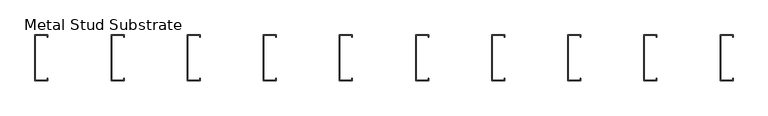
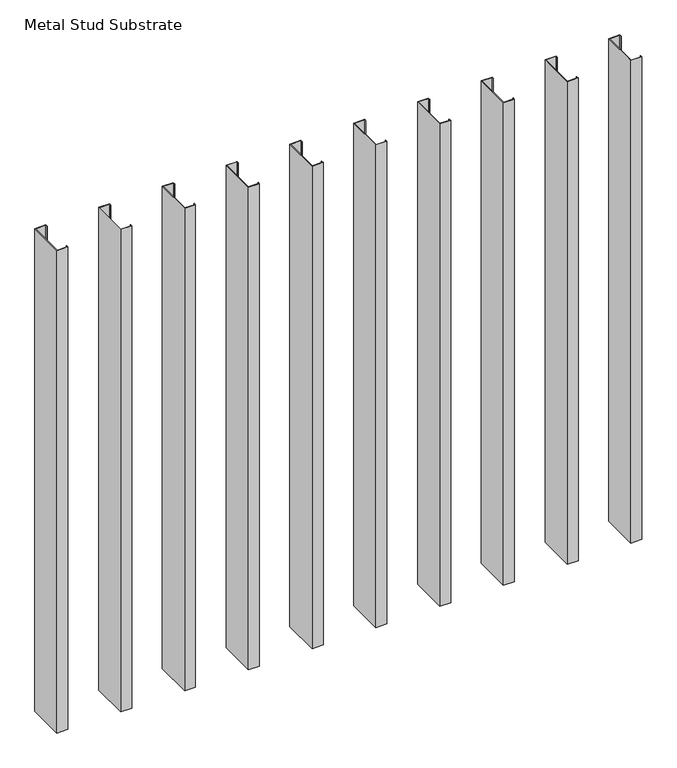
"""IFC4 building model written with IfcOpenShell, lengths in millimetres: fastener geometry, Structural-Supporting-Components_Advanced-Architectural-Products_Metal-Stud-Substrate : Metal Stud Substrate."""

import ifcopenshell
import ifcopenshell.guid

model = None  # the IFC model being written
_history = None  # IfcOwnerHistory: only IFC2X3 demands one
_inside = {}  # id of a spatial element -> (the spatial element, [elements in it])
_under = {}  # id of a project, library or spatial element -> (it, [spatial elements below it])
_declared = {}  # id of a project -> (the project, [libraries it declares])
_typed = {}  # id of a type object -> (the type object, [elements of that type])
_made_of = {}  # id of a material, layer set ... -> (it, [elements and type objects made of it])


def new_model(schema):
    """Start an empty IFC model of exactly this schema.

    Asked for "IFC4X3", IfcOpenShell would pick the latest addendum, in which some entities
    have other attributes; the version numbers below select the first issue.
    IFC2X3 requires an IfcOwnerHistory on every rooted entity: one is made here for all.
    """
    global model, _history
    if schema == "IFC4X3":
        model = ifcopenshell.file(schema_version=(4, 3, 0, 0))
    else:
        model = ifcopenshell.file(schema=schema)
    _inside.clear()
    _under.clear()
    _declared.clear()
    _typed.clear()
    _made_of.clear()
    _history = None
    if model.schema == "IFC2X3":
        org = make("IfcOrganization", Name="unknown")
        user = make(
            "IfcPersonAndOrganization",
            ThePerson=make("IfcPerson", FamilyName="unknown"),
            TheOrganization=org,
        )
        app = make(
            "IfcApplication",
            ApplicationDeveloper=org,
            Version="unknown",
            ApplicationFullName="unknown",
            ApplicationIdentifier="unknown",
        )
        _history = make(
            "IfcOwnerHistory",
            OwningUser=user,
            OwningApplication=app,
            ChangeAction="ADDED",
            CreationDate=0,
        )
    return model


def make(cls, **values):
    """One entity of the class cls with the attributes given. An attribute that is None is left unset."""
    return model.create_entity(
        cls, **{name: value for name, value in values.items() if value is not None}
    )


def rooted(cls, **values):
    """An entity with a GlobalId (a new one), such as an element, a storey or a relation."""
    return make(cls, GlobalId=ifcopenshell.guid.new(), OwnerHistory=_history, **values)


def si_unit(unit_type, name, prefix=None):
    """IfcSIUnit, for example si_unit("LENGTHUNIT", "METRE", prefix="MILLI")."""
    return make("IfcSIUnit", UnitType=unit_type, Prefix=prefix, Name=name)


def assignment(units):
    """IfcUnitAssignment: the units of a project."""
    return None if units is None else make("IfcUnitAssignment", Units=units)


def point(xyz):
    """IfcCartesianPoint."""
    return None if xyz is None else make("IfcCartesianPoint", Coordinates=xyz)


def direction(xyz):
    """IfcDirection."""
    return None if xyz is None else make("IfcDirection", DirectionRatios=xyz)


def frame(location, z_axis=None, x_axis=None):
    """IfcAxis2Placement3D, a coordinate frame: its origin and axes. An axis left out is left unset."""
    return make(
        "IfcAxis2Placement3D",
        Location=point(location),
        Axis=direction(z_axis),
        RefDirection=direction(x_axis),
    )


def origin():
    """The frame at (0, 0, 0) with its axes left unset."""
    return frame((0.0, 0.0, 0.0))


def origin_with_axes():
    """The frame at (0, 0, 0) with the z axis (0, 0, 1) and the x axis (1, 0, 0) written out."""
    return frame((0.0, 0.0, 0.0), z_axis=(0.0, 0.0, 1.0), x_axis=(1.0, 0.0, 0.0))


def place(relative_to, where):
    """IfcLocalPlacement: puts the frame where relative to a parent placement (None: the world)."""
    return make(
        "IfcLocalPlacement", PlacementRelTo=relative_to, RelativePlacement=where
    )


def context(
    kind, dimensions, precision=None, world=None, true_north=None, identifier=None
):
    """IfcGeometricRepresentationContext, for example the 3D "Model" context."""
    return make(
        "IfcGeometricRepresentationContext",
        ContextIdentifier=identifier,
        ContextType=kind,
        CoordinateSpaceDimension=dimensions,
        Precision=precision,
        WorldCoordinateSystem=world,
        TrueNorth=true_north,
    )


def project(units=None, contexts=None):
    """IfcProject with its units and contexts."""
    return rooted(
        "IfcProject",
        Name="project",
        RepresentationContexts=contexts,
        UnitsInContext=assignment(units),
    )


def spatial(cls, under=None, at=None, **own):
    """A site, building, storey or space (cls), placed at a placement, below another one or the project."""
    s = rooted(cls, ObjectPlacement=at, **own)
    if under is not None:
        _under.setdefault(under.id(), (under, []))[1].append(s)
    return s


def polyline(points):
    """IfcPolyline through the points."""
    return make("IfcPolyline", Points=[point(p) for p in points])


def outline(outer, holes=None, kind="AREA"):
    """IfcArbitraryClosedProfileDef: a profile drawn as a closed curve; with holes, ...WithVoids."""
    if holes is None:
        return make("IfcArbitraryClosedProfileDef", ProfileType=kind, OuterCurve=outer)
    return make(
        "IfcArbitraryProfileDefWithVoids",
        ProfileType=kind,
        OuterCurve=outer,
        InnerCurves=holes,
    )


def extrude(swept, where, along, depth):
    """IfcExtrudedAreaSolid: the profile swept, set in the frame where, extruded along a direction by depth."""
    return make(
        "IfcExtrudedAreaSolid",
        SweptArea=swept,
        Position=where,
        ExtrudedDirection=direction(along),
        Depth=depth,
    )


def shape(context_of_items, identifier, shape_type, items):
    """IfcShapeRepresentation: the items that make up one representation, for example the "Body"."""
    return make(
        "IfcShapeRepresentation",
        ContextOfItems=context_of_items,
        RepresentationIdentifier=identifier,
        RepresentationType=shape_type,
        Items=items,
    )


def source(mapping_origin, context_of_items, identifier, shape_type, items):
    """IfcRepresentationMap: a shape defined once, which mapped items show again and again."""
    return make(
        "IfcRepresentationMap",
        MappingOrigin=mapping_origin,
        MappedRepresentation=shape(context_of_items, identifier, shape_type, items),
    )


def transform(
    local_origin,
    x_axis=None,
    y_axis=None,
    z_axis=None,
    scale=None,
    scale2=None,
    scale3=None,
    uniform=True,
):
    """IfcCartesianTransformationOperator3D, or its non-uniform kind. x_axis, y_axis, z_axis: its Axis1, 2, 3."""
    if uniform:
        return make(
            "IfcCartesianTransformationOperator3D",
            Axis1=direction(x_axis),
            Axis2=direction(y_axis),
            LocalOrigin=point(local_origin),
            Scale=scale,
            Axis3=direction(z_axis),
        )
    return make(
        "IfcCartesianTransformationOperator3DnonUniform",
        Axis1=direction(x_axis),
        Axis2=direction(y_axis),
        LocalOrigin=point(local_origin),
        Scale=scale,
        Axis3=direction(z_axis),
        Scale2=scale2,
        Scale3=scale3,
    )


def mapped(mapping_source, mapping_target):
    """IfcMappedItem: shows the shape of a source again, moved by a transform."""
    return make(
        "IfcMappedItem", MappingSource=mapping_source, MappingTarget=mapping_target
    )


def made_of(thing, what):
    """Note that an element or type object is made of a material, layer set ...; save() writes the relation."""
    if what is not None:
        _made_of.setdefault(what.id(), (what, []))[1].append(thing)
    return thing


def element(
    cls,
    number,
    at=None,
    inside=None,
    cuts=None,
    type_object=None,
    material=None,
    context=None,
    identifier="Body",
    shape_type=None,
    held_by="IfcProductDefinitionShape",
    body=None,
    shapes=None,
    **own,
):
    """One element of the class cls, such as IfcWall. Its Tag is "e" and its number.

    at: its placement. inside: the storey or other place that contains it. cuts: it is an
    opening in that element (IfcRelVoidsElement). A single representation is given by context,
    identifier, shape_type and body (its items); several are given by shapes. held_by: the class
    of the entity that holds the representations. save() writes the other relations.
    """
    e = rooted(cls, Tag="e%d" % number, ObjectPlacement=at, **own)
    if body is not None:
        shapes = [shape(context, identifier, shape_type, body)]
    if shapes is not None:
        e.Representation = make(held_by, Representations=shapes)
    if inside is not None:
        _inside.setdefault(inside.id(), (inside, []))[1].append(e)
    if cuts is not None:
        rooted(
            "IfcRelVoidsElement", RelatingBuildingElement=cuts, RelatedOpeningElement=e
        )
    if type_object is not None:
        _typed.setdefault(type_object.id(), (type_object, []))[1].append(e)
    return made_of(e, material)


def aggregate(whole, parts):
    """IfcRelAggregates: a whole, such as a stair, and the parts it consists of."""
    return rooted("IfcRelAggregates", RelatingObject=whole, RelatedObjects=parts)


def save(model, path):
    """Write the relations noted so far, then the file.

    IfcRelAggregates (storeys below a building ...), IfcRelContainedInSpatialStructure (elements
    in a storey), IfcRelDefinesByType, IfcRelAssociatesMaterial and IfcRelDeclares: one each for
    every whole, place, type object, material and project.
    """
    for whole, parts in _under.values():
        aggregate(whole, parts)
    for where, things in _inside.values():
        rooted(
            "IfcRelContainedInSpatialStructure",
            RelatedElements=things,
            RelatingStructure=where,
        )
    for kind, things in _typed.values():
        rooted("IfcRelDefinesByType", RelatedObjects=things, RelatingType=kind)
    for what, things in _made_of.values():
        rooted("IfcRelAssociatesMaterial", RelatedObjects=things, RelatingMaterial=what)
    for by, libraries in _declared.values():
        rooted("IfcRelDeclares", RelatingContext=by, RelatedDefinitions=libraries)
    model.write(path)


def metal_stud_substrate_c954c151(model_context):
    return source(origin(), model_context, "Body", "SweptSolid", [
        extrude(outline(polyline([(2336.8, 0.0), (2380.45625, 0.0), (2380.45625, -8.334375), (2378.7695313, -8.334375), (2378.7695313, -1.6867188), (2338.4867188, -1.6867188), (2338.4867188, -150.7132813), (2378.7695313, -150.7132813), (2378.7695313, -144.065625), (2380.45625, -144.065625), (2380.45625, -152.4), (2336.8, -152.4), (2336.8, 0.0)])), origin_with_axes(), (0.0, 0.0, 1.0), 2032.0),
        extrude(outline(polyline([(2082.8, 0.0), (2126.45625, 0.0), (2126.45625, -8.334375), (2124.7695313, -8.334375), (2124.7695313, -1.6867188), (2084.4867188, -1.6867188), (2084.4867188, -150.7132813), (2124.7695313, -150.7132813), (2124.7695313, -144.065625), (2126.45625, -144.065625), (2126.45625, -152.4), (2082.8, -152.4), (2082.8, 0.0)])), origin_with_axes(), (0.0, 0.0, 1.0), 2032.0),
        extrude(outline(polyline([(1828.8, 0.0), (1872.45625, 0.0), (1872.45625, -8.334375), (1870.7695313, -8.334375), (1870.7695313, -1.6867188), (1830.4867188, -1.6867188), (1830.4867188, -150.7132813), (1870.7695313, -150.7132813), (1870.7695313, -144.065625), (1872.45625, -144.065625), (1872.45625, -152.4), (1828.8, -152.4), (1828.8, 0.0)])), origin_with_axes(), (0.0, 0.0, 1.0), 2032.0),
        extrude(outline(polyline([(1574.8, 0.0), (1618.45625, 0.0), (1618.45625, -8.334375), (1616.7695313, -8.334375), (1616.7695313, -1.6867188), (1576.4867188, -1.6867188), (1576.4867188, -150.7132813), (1616.7695313, -150.7132813), (1616.7695313, -144.065625), (1618.45625, -144.065625), (1618.45625, -152.4), (1574.8, -152.4), (1574.8, 0.0)])), origin_with_axes(), (0.0, 0.0, 1.0), 2032.0),
        extrude(outline(polyline([(1320.8, 0.0), (1364.45625, 0.0), (1364.45625, -8.334375), (1362.7695313, -8.334375), (1362.7695313, -1.6867188), (1322.4867188, -1.6867188), (1322.4867188, -150.7132813), (1362.7695313, -150.7132813), (1362.7695313, -144.065625), (1364.45625, -144.065625), (1364.45625, -152.4), (1320.8, -152.4), (1320.8, 0.0)])), origin_with_axes(), (0.0, 0.0, 1.0), 2032.0),
        extrude(outline(polyline([(1066.8, 0.0), (1110.45625, 0.0), (1110.45625, -8.334375), (1108.7695313, -8.334375), (1108.7695313, -1.6867188), (1068.4867188, -1.6867188), (1068.4867188, -150.7132813), (1108.7695313, -150.7132813), (1108.7695313, -144.065625), (1110.45625, -144.065625), (1110.45625, -152.4), (1066.8, -152.4), (1066.8, 0.0)])), origin_with_axes(), (0.0, 0.0, 1.0), 2032.0),
        extrude(outline(polyline([(812.8, 0.0), (856.45625, 0.0), (856.45625, -8.334375), (854.7695313, -8.334375), (854.7695313, -1.6867188), (814.4867188, -1.6867188), (814.4867188, -150.7132813), (854.7695313, -150.7132813), (854.7695313, -144.065625), (856.45625, -144.065625), (856.45625, -152.4), (812.8, -152.4), (812.8, 0.0)])), origin_with_axes(), (0.0, 0.0, 1.0), 2032.0),
        extrude(outline(polyline([(558.8, 0.0), (602.45625, 0.0), (602.45625, -8.334375), (600.7695313, -8.334375), (600.7695313, -1.6867188), (560.4867188, -1.6867188), (560.4867188, -150.7132813), (600.7695313, -150.7132813), (600.7695313, -144.065625), (602.45625, -144.065625), (602.45625, -152.4), (558.8, -152.4), (558.8, 0.0)])), origin_with_axes(), (0.0, 0.0, 1.0), 2032.0),
        extrude(outline(polyline([(304.8, 0.0), (348.45625, 0.0), (348.45625, -8.334375), (346.7695313, -8.334375), (346.7695313, -1.6867188), (306.4867188, -1.6867188), (306.4867188, -150.7132813), (346.7695313, -150.7132813), (346.7695313, -144.065625), (348.45625, -144.065625), (348.45625, -152.4), (304.8, -152.4), (304.8, 0.0)])), origin_with_axes(), (0.0, 0.0, 1.0), 2032.0),
        extrude(outline(polyline([(50.8, 0.0), (94.45625, 0.0), (94.45625, -8.334375), (92.7695313, -8.334375), (92.7695313, -1.6867188), (52.4867188, -1.6867188), (52.4867188, -150.7132813), (92.7695313, -150.7132813), (92.7695313, -144.065625), (94.45625, -144.065625), (94.45625, -152.4), (50.8, -152.4), (50.8, 0.0)])), origin_with_axes(), (0.0, 0.0, 1.0), 2032.0),
    ])


if __name__ == "__main__":
    model = new_model("IFC4")
    model_context = context("Model", 3, world=origin())
    ifc_project = project(units=[si_unit("LENGTHUNIT", "METRE", prefix="MILLI")], contexts=[model_context])
    site = spatial("IfcSite", under=ifc_project)
    building = spatial("IfcBuilding", under=site)
    placement = place(None, origin())
    metal_stud_substrate_shape = metal_stud_substrate_c954c151(model_context)
    element("IfcFastener", 1, ObjectType="Structural-Supporting-Components_Advanced-Architectural-Products_Metal-Stud-Substrate : Metal Stud Substrate", at=placement, inside=building, context=model_context, shape_type="MappedRepresentation", body=[
        mapped(metal_stud_substrate_shape, transform((0.0, 0.0, 0.0), x_axis=(1.0, 0.0, 0.0), y_axis=(0.0, 1.0, 0.0), z_axis=(0.0, 0.0, 1.0))),
    ])
    save(model, "model.ifc")
